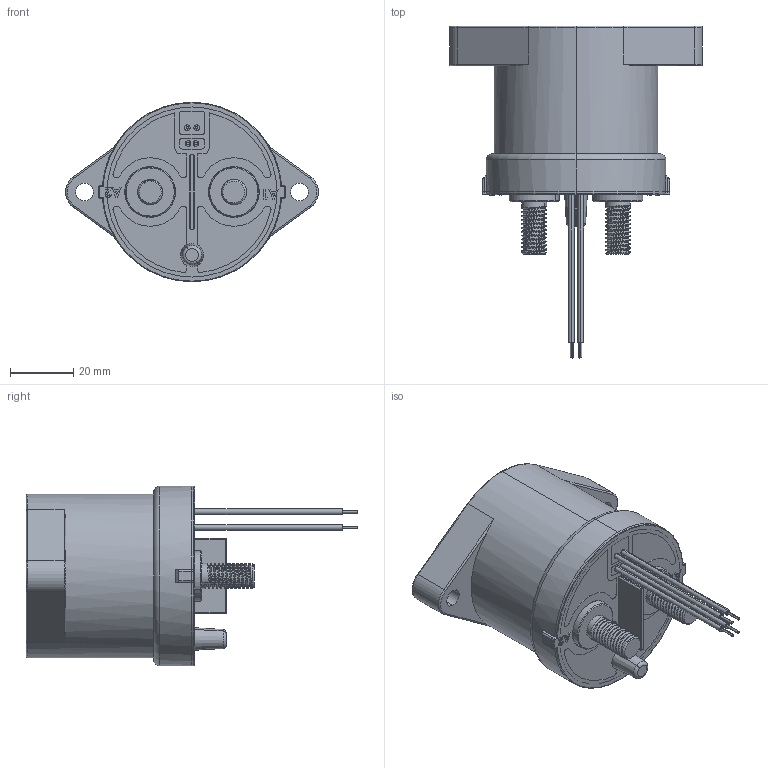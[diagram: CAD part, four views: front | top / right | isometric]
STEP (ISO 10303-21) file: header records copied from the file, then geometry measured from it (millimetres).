
FILE_DESCRIPTION((''),'2;1');
FILE_NAME('PRT0009','2024-11-05T16:02:20',('pc'),(''),'CREO PARAMETRIC BY PTC INC, 2018100','CREO PARAMETRIC BY PTC INC, 2018100','');
FILE_SCHEMA(('CONFIG_CONTROL_DESIGN'));
Length unit declared in the file: millimetre
Products named in the file (1): PRT0009
Bounding box: 80.26 x 105.37 x 57 mm (x, y, z)
Surface area: 33430.4 mm2 (no closed solid volume)
Topology: 0 solids, 7 shells, 425 faces, 1114 edges, 721 vertices
Faces by surface type: cylinder 207, plane 155, torus 30, cone 17, bspline 6, extrusion 6, sphere 4
Entity records: 25608 total; most frequent: CARTESIAN_POINT 14982, ORIENTED_EDGE 2220, DIRECTION 2215, EDGE_CURVE 1110, AXIS2_PLACEMENT_3D 822, VERTEX_POINT 721, VECTOR 571, LINE 565
